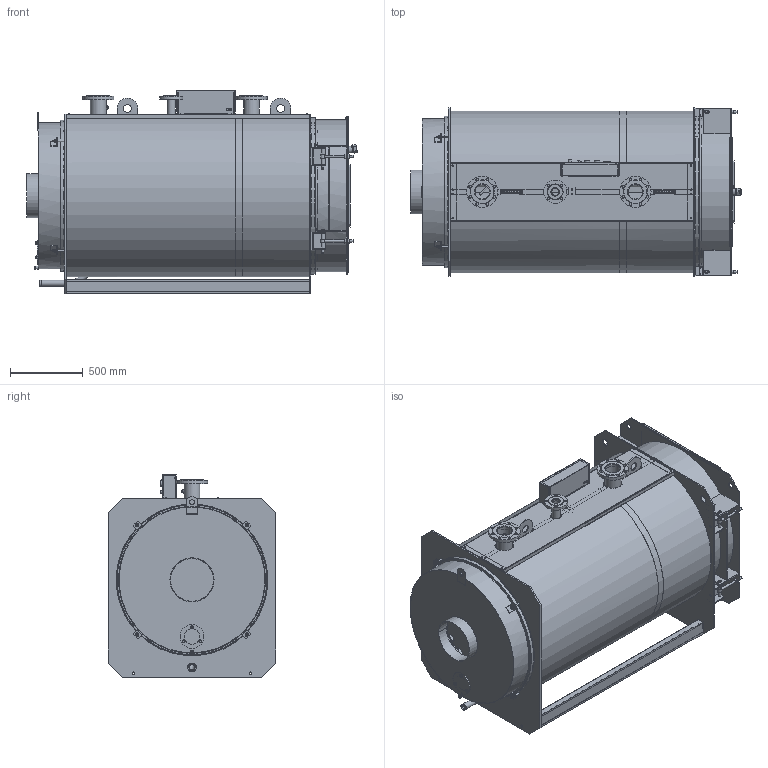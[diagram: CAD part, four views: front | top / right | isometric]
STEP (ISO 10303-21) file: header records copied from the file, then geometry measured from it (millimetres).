
FILE_DESCRIPTION(('STEP AP242'), '1');
FILE_NAME('TITAN Prom 4 (600 êÂò)', '', ('UNSPECIFIED'), ('UNSPECIFIED'), 'ASCON STEP Converter 1.6', 'ASCON Math Kernel', '');
FILE_SCHEMA(('AP242_MANAGED_MODEL_BASED_3D_ENGINEERING_MIM_LF { 1 0 10303 442 1 1 4 }'));
Length unit declared in the file: millimetre
Bounding box: 2265.29 x 1150 x 1393.16 mm (x, y, z)
Volume: 188651371.7 mm3; surface area: 30364714.5 mm2
Topology: 33 solids, 34 shells, 3381 faces, 8550 edges, 5450 vertices
Faces by surface type: plane 2025, cylinder 985, cone 246, bspline 74, torus 32, sphere 10, extrusion 9
Full cylindrical faces by diameter (mm): 2 x4, 2.8 x27, 3 x1, 3.2 x4, 3.5 x8, 3.6 x4, 4 x12, 4.1 x2, 4.5 x12, 4.8 x1, 5 x17, 6 x5, 7 x2, 7.6 x1, 8 x3, 9 x2, 9.25 x8, 9.5 x10, 9.728 x1, 10 x6, 10.106 x8, 10.5 x1, 11 x1, 12 x13, 13 x9, 13.5 x4, 14 x4, 14.5 x1, 15 x3, 15.7 x1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
Entity records: 200596 total; most frequent: CARTESIAN_POINT 94731, ORIENTED_EDGE 15726, DIRECTION 15428, EDGE_CURVE 7863, AXIS2_PLACEMENT_3D 5517, VERTEX_POINT 5442, EDGE_LOOP 4765, VECTOR 4394
